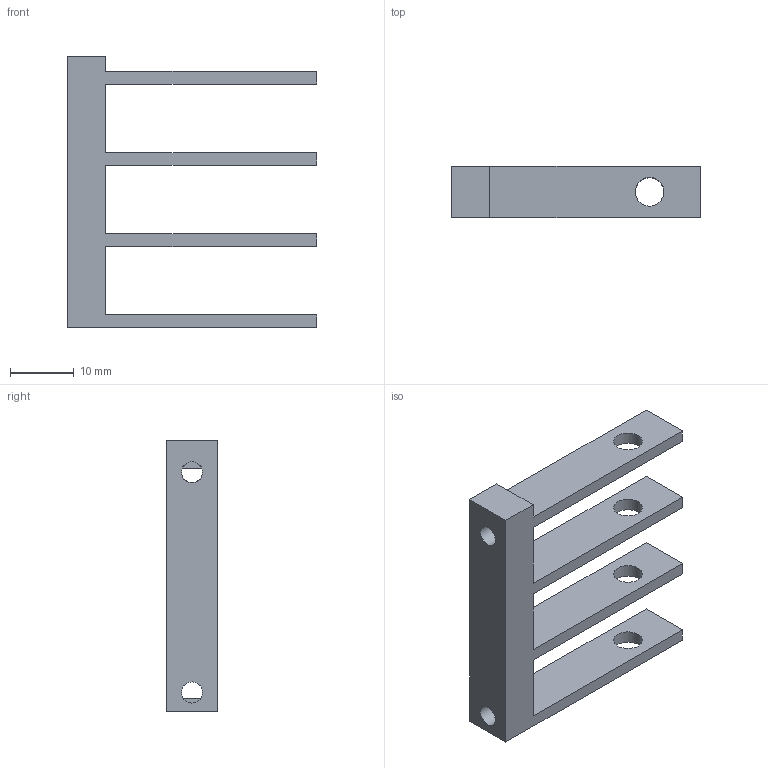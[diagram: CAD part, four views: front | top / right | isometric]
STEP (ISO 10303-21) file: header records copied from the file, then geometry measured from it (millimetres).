
FILE_DESCRIPTION(('FreeCAD Model'),'2;1');
FILE_NAME('Open CASCADE Shape Model','2026-10-30T14:44:41',('FreeCAD'),( 'FreeCAD'),'Open CASCADE STEP processor 7.8','FreeCAD','Unknown');
FILE_SCHEMA(('AUTOMOTIVE_DESIGN { 1 0 10303 214 1 1 1 1 }'));
Length unit declared in the file: millimetre
Products named in the file (1): Open CASCADE STEP translator 7.8 6
Bounding box: 39 x 8 x 42.45 mm (x, y, z)
Volume: 3919.7 mm3; surface area: 4007.4 mm2
Topology: 1 solids, 1 shells, 28 faces, 80 edges, 52 vertices
Faces by surface type: plane 22, cylinder 6
Full cylindrical faces by diameter (mm): 3.3 x2, 4.5 x4
Entity records: 942 total; most frequent: CARTESIAN_POINT 161, ORIENTED_EDGE 160, DIRECTION 154, EDGE_CURVE 80, LINE 64, VECTOR 64, VERTEX_POINT 52, AXIS2_PLACEMENT_3D 45
